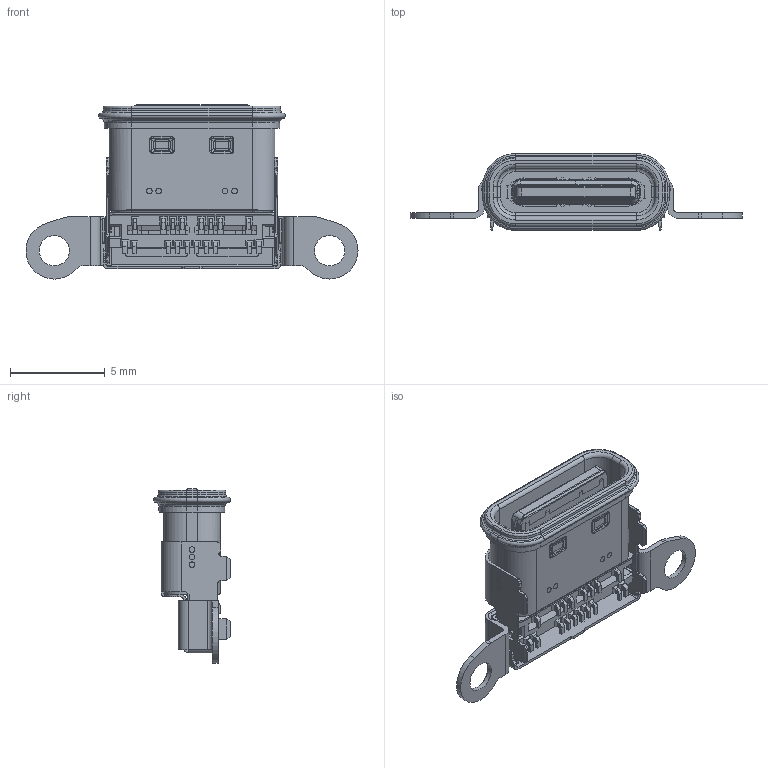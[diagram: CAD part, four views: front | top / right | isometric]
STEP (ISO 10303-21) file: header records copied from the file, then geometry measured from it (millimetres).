
FILE_DESCRIPTION (( 'STEP AP203' ), '1' );
FILE_NAME ('GT-USB-9045F.STEP', '2025-04-08T04:00:20', ( '' ), ( '' ), 'SwSTEP 2.0', 'SolidWorks 2023', '' );
FILE_SCHEMA (( 'CONFIG_CONTROL_DESIGN' ));
Length unit declared in the file: millimetre
Products named in the file (1): GT-USB-9045F
Bounding box: 17.51 x 4.06 x 9.19 mm (x, y, z)
Volume: 127.7 mm3; surface area: 1117.9 mm2
Topology: 23 solids, 49 shells, 5987 faces, 16300 edges, 10339 vertices
Faces by surface type: plane 4199, cylinder 1267, cone 272, bspline 141, torus 72, sphere 36
Entity records: 192132 total; most frequent: CARTESIAN_POINT 40339, ORIENTED_EDGE 32592, DIRECTION 30235, EDGE_CURVE 16296, LINE 12791, VECTOR 12791, VERTEX_POINT 10339, AXIS2_PLACEMENT_3D 8722
